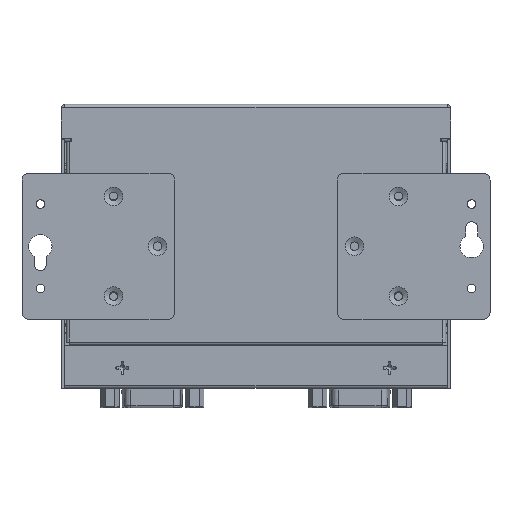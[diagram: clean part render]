
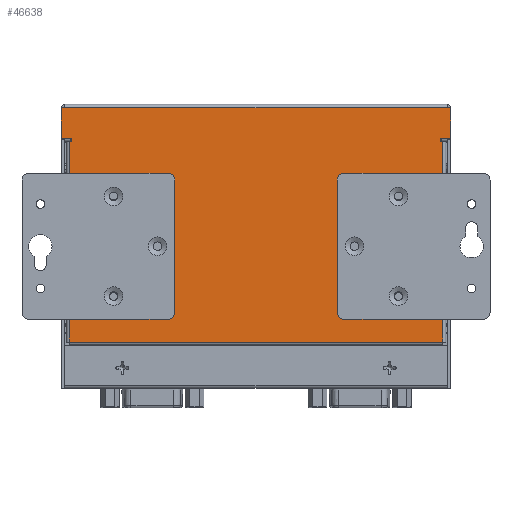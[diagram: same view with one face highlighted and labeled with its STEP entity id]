
A CAD part, front view. The second image highlights one B-rep face of the part: STEP entity #46638.
In plain terms, the highlighted planar face has unit normal (0, -1, 0).
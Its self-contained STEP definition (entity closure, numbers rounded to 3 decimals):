
#854=FACE_BOUND('',#6363,.T.);
#855=FACE_BOUND('',#6364,.T.);
#856=FACE_BOUND('',#6365,.T.);
#857=FACE_BOUND('',#6366,.T.);
#858=FACE_BOUND('',#6367,.T.);
#859=FACE_BOUND('',#6368,.T.);
#1264=PLANE('',#49973);
#3713=FACE_OUTER_BOUND('',#6362,.T.);
#6362=EDGE_LOOP('',(#33101,#33102,#33103,#33104,#33105,#33106,#33107,#33108,
#33109,#33110,#33111,#33112,#33113,#33114));
#6363=EDGE_LOOP('',(#33115));
#6364=EDGE_LOOP('',(#33116));
#6365=EDGE_LOOP('',(#33117));
#6366=EDGE_LOOP('',(#33118));
#6367=EDGE_LOOP('',(#33119));
#6368=EDGE_LOOP('',(#33120));
#9328=LINE('',#71386,#14387);
#9333=LINE('',#71396,#14392);
#9334=LINE('',#71399,#14393);
#9338=LINE('',#71407,#14397);
#9342=LINE('',#71414,#14401);
#9345=LINE('',#71420,#14404);
#9347=LINE('',#71425,#14406);
#9382=LINE('',#71504,#14441);
#9423=LINE('',#71599,#14482);
#9437=LINE('',#71632,#14496);
#9453=LINE('',#71739,#14512);
#9454=LINE('',#71741,#14513);
#9455=LINE('',#71742,#14514);
#9456=LINE('',#71743,#14515);
#14387=VECTOR('',#54529,10.);
#14392=VECTOR('',#54536,10.);
#14393=VECTOR('',#54539,10.);
#14397=VECTOR('',#54545,10.);
#14401=VECTOR('',#54551,10.);
#14404=VECTOR('',#54556,10.);
#14406=VECTOR('',#54560,10.);
#14441=VECTOR('',#54617,10.);
#14482=VECTOR('',#54692,10.);
#14496=VECTOR('',#54730,10.);
#14512=VECTOR('',#54788,10.);
#14513=VECTOR('',#54789,10.);
#14514=VECTOR('',#54790,10.);
#14515=VECTOR('',#54791,10.);
#19359=CIRCLE('',#49974,1.265);
#19360=CIRCLE('',#49975,1.265);
#19361=CIRCLE('',#49976,1.265);
#19362=CIRCLE('',#49977,1.265);
#19363=CIRCLE('',#49978,1.265);
#19364=CIRCLE('',#49979,1.265);
#21004=VERTEX_POINT('',#71383);
#21005=VERTEX_POINT('',#71385);
#21006=VERTEX_POINT('',#71389);
#21009=VERTEX_POINT('',#71394);
#21010=VERTEX_POINT('',#71398);
#21013=VERTEX_POINT('',#71406);
#21015=VERTEX_POINT('',#71411);
#21017=VERTEX_POINT('',#71418);
#21019=VERTEX_POINT('',#71423);
#21051=VERTEX_POINT('',#71500);
#21089=VERTEX_POINT('',#71597);
#21113=VERTEX_POINT('',#71737);
#21114=VERTEX_POINT('',#71738);
#21115=VERTEX_POINT('',#71740);
#21116=VERTEX_POINT('',#71744);
#21117=VERTEX_POINT('',#71746);
#21118=VERTEX_POINT('',#71748);
#21119=VERTEX_POINT('',#71750);
#21120=VERTEX_POINT('',#71752);
#21121=VERTEX_POINT('',#71754);
#25635=EDGE_CURVE('',#21005,#21004,#9328,.T.);
#25640=EDGE_CURVE('',#21006,#21009,#9333,.T.);
#25641=EDGE_CURVE('',#21009,#21010,#9334,.T.);
#25645=EDGE_CURVE('',#21013,#21005,#9338,.T.);
#25649=EDGE_CURVE('',#21015,#21013,#9342,.T.);
#25652=EDGE_CURVE('',#21010,#21017,#9345,.T.);
#25654=EDGE_CURVE('',#21017,#21019,#9347,.T.);
#25694=EDGE_CURVE('',#21051,#21015,#9382,.T.);
#25742=EDGE_CURVE('',#21019,#21089,#9423,.T.);
#25760=EDGE_CURVE('',#21089,#21051,#9437,.T.);
#25789=EDGE_CURVE('',#21113,#21114,#9453,.T.);
#25790=EDGE_CURVE('',#21114,#21115,#9454,.T.);
#25791=EDGE_CURVE('',#21115,#21006,#9455,.T.);
#25792=EDGE_CURVE('',#21113,#21004,#9456,.T.);
#25793=EDGE_CURVE('',#21116,#21116,#19359,.T.);
#25794=EDGE_CURVE('',#21117,#21117,#19360,.T.);
#25795=EDGE_CURVE('',#21118,#21118,#19361,.T.);
#25796=EDGE_CURVE('',#21119,#21119,#19362,.T.);
#25797=EDGE_CURVE('',#21120,#21120,#19363,.T.);
#25798=EDGE_CURVE('',#21121,#21121,#19364,.T.);
#33101=ORIENTED_EDGE('',*,*,#25789,.T.);
#33102=ORIENTED_EDGE('',*,*,#25790,.T.);
#33103=ORIENTED_EDGE('',*,*,#25791,.T.);
#33104=ORIENTED_EDGE('',*,*,#25640,.T.);
#33105=ORIENTED_EDGE('',*,*,#25641,.T.);
#33106=ORIENTED_EDGE('',*,*,#25652,.T.);
#33107=ORIENTED_EDGE('',*,*,#25654,.T.);
#33108=ORIENTED_EDGE('',*,*,#25742,.T.);
#33109=ORIENTED_EDGE('',*,*,#25760,.T.);
#33110=ORIENTED_EDGE('',*,*,#25694,.T.);
#33111=ORIENTED_EDGE('',*,*,#25649,.T.);
#33112=ORIENTED_EDGE('',*,*,#25645,.T.);
#33113=ORIENTED_EDGE('',*,*,#25635,.T.);
#33114=ORIENTED_EDGE('',*,*,#25792,.F.);
#33115=ORIENTED_EDGE('',*,*,#25793,.T.);
#33116=ORIENTED_EDGE('',*,*,#25794,.T.);
#33117=ORIENTED_EDGE('',*,*,#25795,.T.);
#33118=ORIENTED_EDGE('',*,*,#25796,.T.);
#33119=ORIENTED_EDGE('',*,*,#25797,.T.);
#33120=ORIENTED_EDGE('',*,*,#25798,.T.);
#46638=ADVANCED_FACE('',(#3713,#854,#855,#856,#857,#858,#859),#1264,.T.);
#49973=AXIS2_PLACEMENT_3D('',#71736,#54786,#54787);
#49974=AXIS2_PLACEMENT_3D('',#71745,#54792,#54793);
#49975=AXIS2_PLACEMENT_3D('',#71747,#54794,#54795);
#49976=AXIS2_PLACEMENT_3D('',#71749,#54796,#54797);
#49977=AXIS2_PLACEMENT_3D('',#71751,#54798,#54799);
#49978=AXIS2_PLACEMENT_3D('',#71753,#54800,#54801);
#49979=AXIS2_PLACEMENT_3D('',#71755,#54802,#54803);
#54529=DIRECTION('',(1.,0.,0.));
#54536=DIRECTION('',(0.,0.,-1.));
#54539=DIRECTION('',(1.,0.,0.));
#54545=DIRECTION('',(0.,0.,1.));
#54551=DIRECTION('',(-1.,0.,0.));
#54556=DIRECTION('',(0.,0.,-1.));
#54560=DIRECTION('',(-1.,0.,0.));
#54617=DIRECTION('',(0.,0.,1.));
#54692=DIRECTION('',(0.,0.,-1.));
#54730=DIRECTION('',(1.,0.,0.));
#54786=DIRECTION('center_axis',(0.,-1.,0.));
#54787=DIRECTION('ref_axis',(1.,0.,0.));
#54788=DIRECTION('',(-1.,0.,0.));
#54789=DIRECTION('',(-1.,0.,0.));
#54790=DIRECTION('',(-1.,0.,0.));
#54791=DIRECTION('',(0.,0.,-1.));
#54792=DIRECTION('center_axis',(0.,1.,0.));
#54793=DIRECTION('ref_axis',(0.,0.,-1.));
#54794=DIRECTION('center_axis',(0.,1.,0.));
#54795=DIRECTION('ref_axis',(0.,0.,-1.));
#54796=DIRECTION('center_axis',(0.,1.,0.));
#54797=DIRECTION('ref_axis',(0.,0.,-1.));
#54798=DIRECTION('center_axis',(0.,1.,0.));
#54799=DIRECTION('ref_axis',(0.,0.,-1.));
#54800=DIRECTION('center_axis',(0.,1.,0.));
#54801=DIRECTION('ref_axis',(0.,0.,-1.));
#54802=DIRECTION('center_axis',(0.,1.,0.));
#54803=DIRECTION('ref_axis',(0.,0.,-1.));
#71383=CARTESIAN_POINT('',(57.65,-8.,-8.8));
#71385=CARTESIAN_POINT('',(54.74,-8.,-8.8));
#71386=CARTESIAN_POINT('',(3.1,-8.,-8.8));
#71389=CARTESIAN_POINT('',(-57.65,-8.,0.19));
#71394=CARTESIAN_POINT('',(-57.65,-8.,-8.8));
#71396=CARTESIAN_POINT('',(-57.65,-8.,-8.8));
#71398=CARTESIAN_POINT('',(-54.74,-8.,-8.8));
#71399=CARTESIAN_POINT('',(-52.395,-8.,-8.8));
#71406=CARTESIAN_POINT('',(54.74,-8.,-9.8));
#71407=CARTESIAN_POINT('',(54.74,-8.,-16.9));
#71411=CARTESIAN_POINT('',(55.24,-8.,-9.8));
#71414=CARTESIAN_POINT('',(2.345,-8.,-9.8));
#71418=CARTESIAN_POINT('',(-54.74,-8.,-9.8));
#71420=CARTESIAN_POINT('',(-54.74,-8.,-17.4));
#71423=CARTESIAN_POINT('',(-55.24,-8.,-9.8));
#71425=CARTESIAN_POINT('',(-53.15,-8.,-9.8));
#71500=CARTESIAN_POINT('',(55.24,-8.,-69.157));
#71504=CARTESIAN_POINT('',(55.24,-8.,-17.4));
#71597=CARTESIAN_POINT('',(-55.24,-8.,-69.157));
#71599=CARTESIAN_POINT('',(-55.24,-8.,-47.4));
#71632=CARTESIAN_POINT('',(2.595,-8.,-69.157));
#71736=CARTESIAN_POINT('Origin',(-50.05,-8.,-25.));
#71737=CARTESIAN_POINT('',(57.65,-8.,0.19));
#71738=CARTESIAN_POINT('',(56.64,-8.,0.19));
#71739=CARTESIAN_POINT('',(-53.85,-8.,0.19));
#71740=CARTESIAN_POINT('',(-56.64,-8.,0.19));
#71741=CARTESIAN_POINT('',(-53.85,-8.,0.19));
#71742=CARTESIAN_POINT('',(-53.85,-8.,0.19));
#71743=CARTESIAN_POINT('',(57.65,-8.,-8.8));
#71744=CARTESIAN_POINT('',(-29.15,-8.,-39.536));
#71745=CARTESIAN_POINT('Origin',(-29.15,-8.,-40.8));
#71746=CARTESIAN_POINT('',(42.25,-8.,-24.536));
#71747=CARTESIAN_POINT('Origin',(42.25,-8.,-25.8));
#71748=CARTESIAN_POINT('',(42.25,-8.,-54.536));
#71749=CARTESIAN_POINT('Origin',(42.25,-8.,-55.8));
#71750=CARTESIAN_POINT('',(29.15,-8.,-39.536));
#71751=CARTESIAN_POINT('Origin',(29.15,-8.,-40.8));
#71752=CARTESIAN_POINT('',(-42.25,-8.,-24.536));
#71753=CARTESIAN_POINT('Origin',(-42.25,-8.,-25.8));
#71754=CARTESIAN_POINT('',(-42.25,-8.,-54.536));
#71755=CARTESIAN_POINT('Origin',(-42.25,-8.,-55.8));
